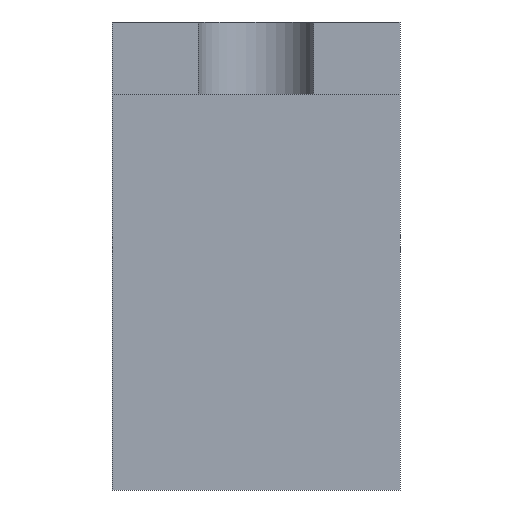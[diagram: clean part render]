
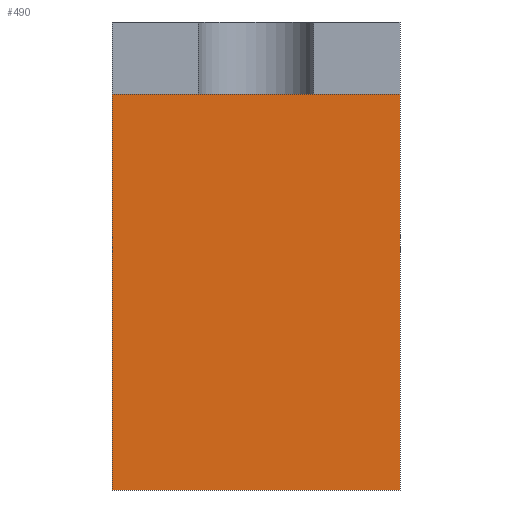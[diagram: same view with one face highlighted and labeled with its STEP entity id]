
A CAD part, front view. The second image highlights one B-rep face of the part: STEP entity #490.
In plain terms, the highlighted planar face has unit normal (0, -1, 0).
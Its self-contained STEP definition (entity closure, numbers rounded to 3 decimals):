
#22 = VERTEX_POINT('',#23);
#23 = CARTESIAN_POINT('',(-103.,-35.5,20.));
#32 = PLANE('',#33);
#33 = AXIS2_PLACEMENT_3D('',#34,#35,#36);
#34 = CARTESIAN_POINT('',(-103.,-31.5,19.));
#35 = DIRECTION('',(1.,0.,0.));
#36 = DIRECTION('',(0.,0.,1.));
#44 = PLANE('',#45);
#45 = AXIS2_PLACEMENT_3D('',#46,#47,#48);
#46 = CARTESIAN_POINT('',(-103.,-35.5,20.));
#47 = DIRECTION('',(0.,0.,1.));
#48 = DIRECTION('',(1.,0.,0.));
#56 = EDGE_CURVE('',#57,#22,#59,.T.);
#57 = VERTEX_POINT('',#58);
#58 = CARTESIAN_POINT('',(-103.,-35.5,9.));
#59 = SURFACE_CURVE('',#60,(#64,#71),.PCURVE_S1.);
#60 = LINE('',#61,#62);
#61 = CARTESIAN_POINT('',(-103.,-35.5,9.));
#62 = VECTOR('',#63,1.);
#63 = DIRECTION('',(0.,0.,1.));
#64 = PCURVE('',#32,#65);
#65 = DEFINITIONAL_REPRESENTATION('',(#66),#70);
#66 = LINE('',#67,#68);
#67 = CARTESIAN_POINT('',(-10.,4.));
#68 = VECTOR('',#69,1.);
#69 = DIRECTION('',(1.,0.));
#70 = ( GEOMETRIC_REPRESENTATION_CONTEXT(2) 
PARAMETRIC_REPRESENTATION_CONTEXT() REPRESENTATION_CONTEXT('2D SPACE',''
  ) );
#71 = PCURVE('',#72,#77);
#72 = PLANE('',#73);
#73 = AXIS2_PLACEMENT_3D('',#74,#75,#76);
#74 = CARTESIAN_POINT('',(-103.,-35.5,9.));
#75 = DIRECTION('',(0.,1.,0.));
#76 = DIRECTION('',(0.,0.,1.));
#77 = DEFINITIONAL_REPRESENTATION('',(#78),#82);
#78 = LINE('',#79,#80);
#79 = CARTESIAN_POINT('',(0.,0.));
#80 = VECTOR('',#81,1.);
#81 = DIRECTION('',(1.,0.));
#82 = ( GEOMETRIC_REPRESENTATION_CONTEXT(2) 
PARAMETRIC_REPRESENTATION_CONTEXT() REPRESENTATION_CONTEXT('2D SPACE',''
  ) );
#100 = PLANE('',#101);
#101 = AXIS2_PLACEMENT_3D('',#102,#103,#104);
#102 = CARTESIAN_POINT('',(-103.,-35.5,9.));
#103 = DIRECTION('',(0.,0.,1.));
#104 = DIRECTION('',(1.,0.,0.));
#366 = EDGE_CURVE('',#22,#367,#369,.T.);
#367 = VERTEX_POINT('',#368);
#368 = CARTESIAN_POINT('',(-95.,-35.5,20.));
#369 = SURFACE_CURVE('',#370,(#374,#381),.PCURVE_S1.);
#370 = LINE('',#371,#372);
#371 = CARTESIAN_POINT('',(-103.,-35.5,20.));
#372 = VECTOR('',#373,1.);
#373 = DIRECTION('',(1.,0.,0.));
#374 = PCURVE('',#44,#375);
#375 = DEFINITIONAL_REPRESENTATION('',(#376),#380);
#376 = LINE('',#377,#378);
#377 = CARTESIAN_POINT('',(0.,0.));
#378 = VECTOR('',#379,1.);
#379 = DIRECTION('',(1.,0.));
#380 = ( GEOMETRIC_REPRESENTATION_CONTEXT(2) 
PARAMETRIC_REPRESENTATION_CONTEXT() REPRESENTATION_CONTEXT('2D SPACE',''
  ) );
#381 = PCURVE('',#72,#382);
#382 = DEFINITIONAL_REPRESENTATION('',(#383),#387);
#383 = LINE('',#384,#385);
#384 = CARTESIAN_POINT('',(11.,0.));
#385 = VECTOR('',#386,1.);
#386 = DIRECTION('',(0.,1.));
#387 = ( GEOMETRIC_REPRESENTATION_CONTEXT(2) 
PARAMETRIC_REPRESENTATION_CONTEXT() REPRESENTATION_CONTEXT('2D SPACE',''
  ) );
#405 = PLANE('',#406);
#406 = AXIS2_PLACEMENT_3D('',#407,#408,#409);
#407 = CARTESIAN_POINT('',(-95.,-35.5,9.));
#408 = DIRECTION('',(1.,0.,0.));
#409 = DIRECTION('',(0.,0.,1.));
#490 = ADVANCED_FACE('',(#491),#72,.F.);
#491 = FACE_BOUND('',#492,.F.);
#492 = EDGE_LOOP('',(#493,#516,#517,#518));
#493 = ORIENTED_EDGE('',*,*,#494,.F.);
#494 = EDGE_CURVE('',#57,#495,#497,.T.);
#495 = VERTEX_POINT('',#496);
#496 = CARTESIAN_POINT('',(-95.,-35.5,9.));
#497 = SURFACE_CURVE('',#498,(#502,#509),.PCURVE_S1.);
#498 = LINE('',#499,#500);
#499 = CARTESIAN_POINT('',(-103.,-35.5,9.));
#500 = VECTOR('',#501,1.);
#501 = DIRECTION('',(1.,0.,0.));
#502 = PCURVE('',#72,#503);
#503 = DEFINITIONAL_REPRESENTATION('',(#504),#508);
#504 = LINE('',#505,#506);
#505 = CARTESIAN_POINT('',(0.,0.));
#506 = VECTOR('',#507,1.);
#507 = DIRECTION('',(0.,1.));
#508 = ( GEOMETRIC_REPRESENTATION_CONTEXT(2) 
PARAMETRIC_REPRESENTATION_CONTEXT() REPRESENTATION_CONTEXT('2D SPACE',''
  ) );
#509 = PCURVE('',#100,#510);
#510 = DEFINITIONAL_REPRESENTATION('',(#511),#515);
#511 = LINE('',#512,#513);
#512 = CARTESIAN_POINT('',(0.,0.));
#513 = VECTOR('',#514,1.);
#514 = DIRECTION('',(1.,0.));
#515 = ( GEOMETRIC_REPRESENTATION_CONTEXT(2) 
PARAMETRIC_REPRESENTATION_CONTEXT() REPRESENTATION_CONTEXT('2D SPACE',''
  ) );
#516 = ORIENTED_EDGE('',*,*,#56,.T.);
#517 = ORIENTED_EDGE('',*,*,#366,.T.);
#518 = ORIENTED_EDGE('',*,*,#519,.F.);
#519 = EDGE_CURVE('',#495,#367,#520,.T.);
#520 = SURFACE_CURVE('',#521,(#525,#532),.PCURVE_S1.);
#521 = LINE('',#522,#523);
#522 = CARTESIAN_POINT('',(-95.,-35.5,9.));
#523 = VECTOR('',#524,1.);
#524 = DIRECTION('',(0.,0.,1.));
#525 = PCURVE('',#72,#526);
#526 = DEFINITIONAL_REPRESENTATION('',(#527),#531);
#527 = LINE('',#528,#529);
#528 = CARTESIAN_POINT('',(0.,8.));
#529 = VECTOR('',#530,1.);
#530 = DIRECTION('',(1.,0.));
#531 = ( GEOMETRIC_REPRESENTATION_CONTEXT(2) 
PARAMETRIC_REPRESENTATION_CONTEXT() REPRESENTATION_CONTEXT('2D SPACE',''
  ) );
#532 = PCURVE('',#405,#533);
#533 = DEFINITIONAL_REPRESENTATION('',(#534),#538);
#534 = LINE('',#535,#536);
#535 = CARTESIAN_POINT('',(0.,0.));
#536 = VECTOR('',#537,1.);
#537 = DIRECTION('',(1.,0.));
#538 = ( GEOMETRIC_REPRESENTATION_CONTEXT(2) 
PARAMETRIC_REPRESENTATION_CONTEXT() REPRESENTATION_CONTEXT('2D SPACE',''
  ) );
